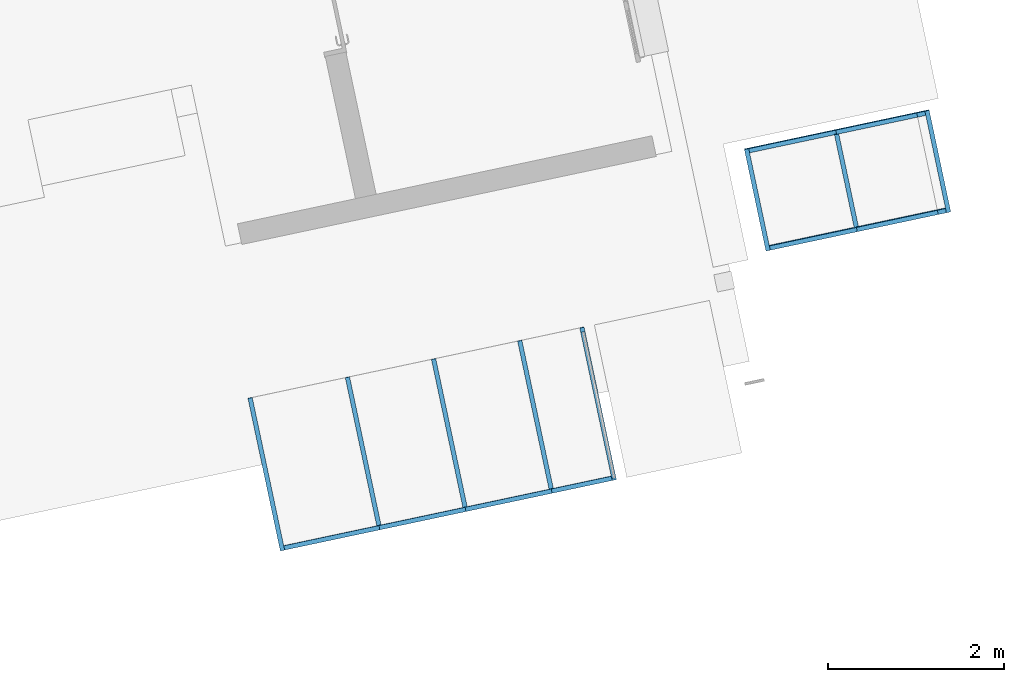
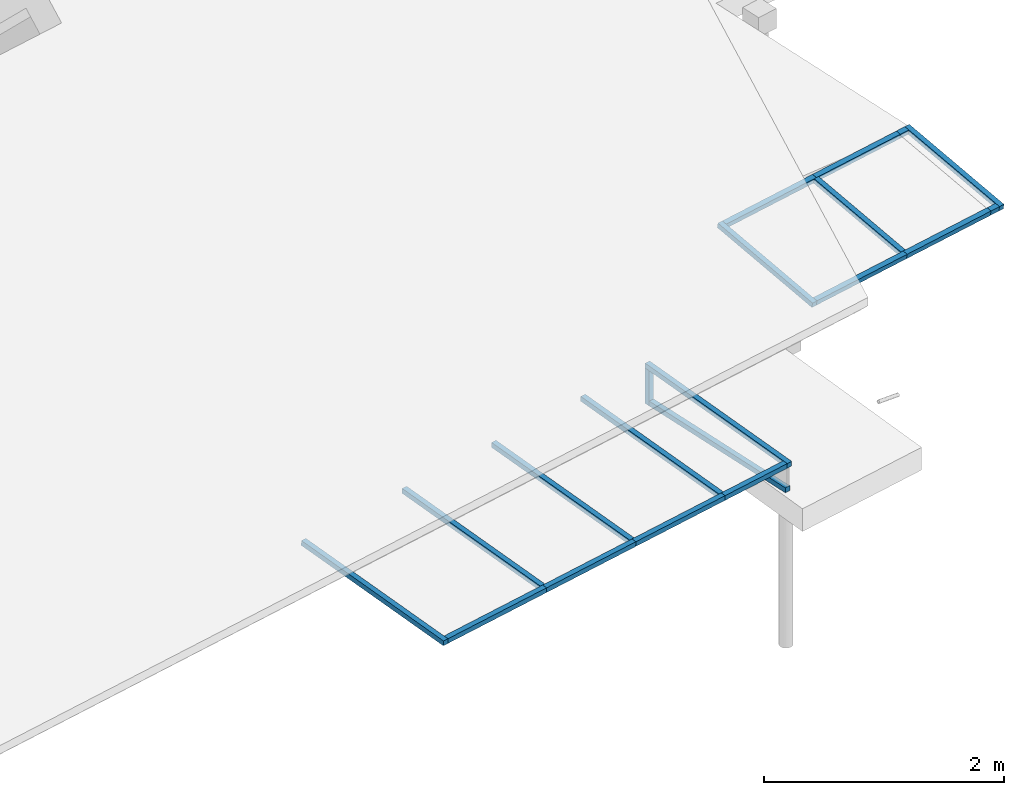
# One storey, part 1 of 10: 20 members, 3 elements without a shape of their own.
"""IFC2X3 building model written with IfcOpenShell, lengths in centimetres."""

from ifc_helpers import new_model, entity, si_unit, converted_unit, derived_unit, direction, frame, origin, origin_2d_with_axis, place, context, subcontext, project, spatial, rectangle, extrude, source, transform, mapped, material, type_object, type_shapes, element, aggregate, save


model = new_model("IFC2X3")

# Units and contexts
model_context = context("Model", 3, precision=0.001, world=origin(), true_north=direction((6.12303176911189e-17, 1.0)))
body_context = subcontext(model_context, "Body", "Model", "MODEL_VIEW")
ifc_project = project(units=[si_unit("LENGTHUNIT", "METRE", prefix="CENTI"), si_unit("AREAUNIT", "SQUARE_METRE"), si_unit("VOLUMEUNIT", "CUBIC_METRE"), converted_unit("PLANEANGLEUNIT", "DEGREE", entity("IfcRatioMeasure", 0.0174532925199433), si_unit("PLANEANGLEUNIT", "RADIAN"), dimensions=[0, 0, 0, 0, 0, 0, 0]), si_unit("MASSUNIT", "GRAM", prefix="KILO"), derived_unit("MASSDENSITYUNIT", [(si_unit("MASSUNIT", "GRAM", prefix="KILO"), 1), (si_unit("LENGTHUNIT", "METRE"), -3)]), derived_unit("IONCONCENTRATIONUNIT", [(si_unit("MASSUNIT", "GRAM", prefix="KILO"), 1), (si_unit("LENGTHUNIT", "METRE"), -3)]), derived_unit("MOMENTOFINERTIAUNIT", [(si_unit("LENGTHUNIT", "METRE"), 4)]), si_unit("TIMEUNIT", "SECOND"), si_unit("FREQUENCYUNIT", "HERTZ"), si_unit("THERMODYNAMICTEMPERATUREUNIT", "DEGREE_CELSIUS"), derived_unit("THERMALTRANSMITTANCEUNIT", [(si_unit("MASSUNIT", "GRAM", prefix="KILO"), 1), (si_unit("THERMODYNAMICTEMPERATUREUNIT", "KELVIN"), -1), (si_unit("TIMEUNIT", "SECOND"), -3)]), derived_unit("THERMALCONDUCTANCEUNIT", [(si_unit("MASSUNIT", "GRAM", prefix="KILO"), 1), (si_unit("THERMODYNAMICTEMPERATUREUNIT", "KELVIN"), -1), (si_unit("TIMEUNIT", "SECOND"), -3), (si_unit("LENGTHUNIT", "METRE"), 1)]), derived_unit("VOLUMETRICFLOWRATEUNIT", [(si_unit("LENGTHUNIT", "METRE"), 3), (si_unit("TIMEUNIT", "SECOND"), -1)]), derived_unit("MASSFLOWRATEUNIT", [(si_unit("MASSUNIT", "GRAM", prefix="KILO"), 1), (si_unit("TIMEUNIT", "SECOND"), -1)]), derived_unit("ROTATIONALFREQUENCYUNIT", [(si_unit("TIMEUNIT", "SECOND"), -1)]), si_unit("ELECTRICCURRENTUNIT", "AMPERE"), si_unit("ELECTRICVOLTAGEUNIT", "VOLT"), si_unit("POWERUNIT", "WATT"), si_unit("FORCEUNIT", "NEWTON", prefix="KILO"), si_unit("ILLUMINANCEUNIT", "LUX"), si_unit("LUMINOUSFLUXUNIT", "LUMEN"), si_unit("LUMINOUSINTENSITYUNIT", "CANDELA"), derived_unit("USERDEFINED", [(si_unit("MASSUNIT", "GRAM", prefix="KILO"), -1), (si_unit("LENGTHUNIT", "METRE"), -2), (si_unit("TIMEUNIT", "SECOND"), 3), (si_unit("LUMINOUSFLUXUNIT", "LUMEN"), 1)]), derived_unit("USERDEFINED", [(si_unit("MASSUNIT", "GRAM", prefix="KILO"), 1), (si_unit("TIMEUNIT", "SECOND"), -3), (si_unit("LENGTHUNIT", "METRE"), 3), (si_unit("ELECTRICCURRENTUNIT", "AMPERE"), -2)]), derived_unit("SOUNDPOWERUNIT", [(si_unit("MASSUNIT", "GRAM", prefix="KILO"), 1), (si_unit("TIMEUNIT", "SECOND"), -3), (si_unit("LENGTHUNIT", "METRE"), 2)]), derived_unit("SOUNDPRESSUREUNIT", [(si_unit("MASSUNIT", "GRAM", prefix="KILO"), 1), (si_unit("LENGTHUNIT", "METRE"), -1), (si_unit("TIMEUNIT", "SECOND"), -2)]), derived_unit("LINEARVELOCITYUNIT", [(si_unit("LENGTHUNIT", "METRE"), 1), (si_unit("TIMEUNIT", "SECOND"), -1)]), si_unit("PRESSUREUNIT", "PASCAL"), derived_unit("USERDEFINED", [(si_unit("MASSUNIT", "GRAM", prefix="KILO"), 1), (si_unit("LENGTHUNIT", "METRE"), -2), (si_unit("TIMEUNIT", "SECOND"), -2)]), derived_unit("LINEARFORCEUNIT", [(si_unit("MASSUNIT", "GRAM", prefix="KILO"), 1), (si_unit("TIMEUNIT", "SECOND"), -2)]), derived_unit("PLANARFORCEUNIT", [(si_unit("MASSUNIT", "GRAM", prefix="KILO"), 1), (si_unit("LENGTHUNIT", "METRE"), -1), (si_unit("TIMEUNIT", "SECOND"), -2)]), derived_unit("SPECIFICHEATCAPACITYUNIT", [(si_unit("THERMODYNAMICTEMPERATUREUNIT", "KELVIN"), -1), (si_unit("LENGTHUNIT", "METRE"), 2), (si_unit("TIMEUNIT", "SECOND"), -2)]), derived_unit("HEATINGVALUEUNIT", [(si_unit("LENGTHUNIT", "METRE"), 2), (si_unit("TIMEUNIT", "SECOND"), -2)]), derived_unit("VAPORPERMEABILITYUNIT", [(si_unit("LENGTHUNIT", "METRE"), -1), (si_unit("TIMEUNIT", "SECOND"), 1)]), derived_unit("DYNAMICVISCOSITYUNIT", [(si_unit("MASSUNIT", "GRAM", prefix="KILO"), 1), (si_unit("TIMEUNIT", "SECOND"), -1), (si_unit("LENGTHUNIT", "METRE"), -1)]), derived_unit("THERMALEXPANSIONCOEFFICIENTUNIT", [(si_unit("THERMODYNAMICTEMPERATUREUNIT", "KELVIN"), -1)]), derived_unit("MODULUSOFELASTICITYUNIT", [(si_unit("MASSUNIT", "GRAM", prefix="KILO"), 1), (si_unit("LENGTHUNIT", "METRE"), -1), (si_unit("TIMEUNIT", "SECOND"), -2)]), derived_unit("ISOTHERMALMOISTURECAPACITYUNIT", [(si_unit("LENGTHUNIT", "METRE"), 3), (si_unit("MASSUNIT", "GRAM", prefix="KILO"), -1)]), derived_unit("MOISTUREDIFFUSIVITYUNIT", [(si_unit("TIMEUNIT", "SECOND"), -1), (si_unit("LENGTHUNIT", "METRE"), 2)])], contexts=[model_context])

# Site, building, storey
site_placement = place(None, frame((14083.8920177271, -6853.25409548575, 6900.0), z_axis=(0.0, 0.0, 1.0), x_axis=(0.978188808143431, 0.207717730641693, 0.0)))
site = spatial("IfcSite", under=ifc_project, at=site_placement, Name="Surface", CompositionType="ELEMENT")
building_placement = place(site_placement, origin())
building = spatial("IfcBuilding", under=site, at=building_placement, CompositionType="ELEMENT")
storey_placement = place(building_placement, frame((0.0, 0.0, 289.0)))
storey = spatial("IfcBuildingStorey", under=building, at=storey_placement, Name="_R+1", CompositionType="ELEMENT", Elevation=289.0)

# Roof, members
curtain_wall_type_1 = type_object("IfcCurtainWallType", Name="Vitres inclinées:Toit en verre 1m x 2m", PredefinedType="NOTDEFINED")
roof_1_placement = place(storey_placement, frame((0.0, 0.0, -289.0)))
roof_1 = element("IfcRoof", 1, at=roof_1_placement, inside=storey, type_object=curtain_wall_type_1, Name="Vitres inclinées:Toit en verre 1m x 2m", ObjectType="Vitres inclinées:Toit en verre 1m x 2m", ShapeType="NOTDEFINED")
ifc_material = material(Name="__ METAL_gris foncé (menuiseries acier)______________________TEST")
member_type_1 = type_object("IfcMemberType", Name="Meneau rectangulaire:Métal 5x5 cm_bord haut", PredefinedType="MULLION", material=ifc_material)
shared_shape_1 = source(origin(), body_context, "Body", "SweptSolid", [
    extrude(rectangle(XDim=5.0, YDim=5.0, at=origin_2d_with_axis()), frame((0.0, 2.5, -172.322222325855), z_axis=(0.0, 0.0, 1.0), x_axis=(0.0, -1.0, 0.0)), (0.0, 0.0, 1.0), 172.322222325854),
])
type_shapes(member_type_1, [shared_shape_1])
member_1_placement = place(roof_1_placement, frame((-6684.95514329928, 14764.6724778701, 365.0), z_axis=(0.0, 0.998408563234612, 0.0563945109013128), x_axis=(1.0, 0.0, 0.0)))
member_1 = element("IfcMember", 2, at=member_1_placement, type_object=member_type_1, material=ifc_material, Name="Meneau rectangulaire:Métal 5x5 cm_bord haut", ObjectType="Meneau rectangulaire:Métal 5x5 cm_bord haut", context=body_context, shape_type="MappedRepresentation", body=[
    mapped(shared_shape_1, transform((0.0, 0.0, 0.0), scale=1.0)),
])
member_2_placement = place(roof_1_placement, frame((-6584.95514329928, 14764.6724778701, 365.0), z_axis=(0.0, 0.998408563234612, 0.0563945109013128), x_axis=(1.0, 0.0, 0.0)))
member_2 = element("IfcMember", 3, at=member_2_placement, type_object=member_type_1, material=ifc_material, Name="Meneau rectangulaire:Métal 5x5 cm_bord haut", ObjectType="Meneau rectangulaire:Métal 5x5 cm_bord haut", context=body_context, shape_type="MappedRepresentation", body=[
    mapped(shared_shape_1, transform((0.0, 0.0, 0.0), scale=1.0)),
])
member_3_placement = place(roof_1_placement, frame((-6484.95514329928, 14764.6724778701, 365.0), z_axis=(0.0, 0.998408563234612, 0.0563945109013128), x_axis=(1.0, 0.0, 0.0)))
member_3 = element("IfcMember", 4, at=member_3_placement, type_object=member_type_1, material=ifc_material, Name="Meneau rectangulaire:Métal 5x5 cm_bord haut", ObjectType="Meneau rectangulaire:Métal 5x5 cm_bord haut", context=body_context, shape_type="MappedRepresentation", body=[
    mapped(shared_shape_1, transform((0.0, 0.0, 0.0), scale=1.0)),
])
member_type_2 = type_object("IfcMemberType", Name="Meneau rectangulaire:Métal 5x5 cm_bord haut", PredefinedType="MULLION", material=ifc_material)
shared_shape_2 = source(origin(), body_context, "Body", "SweptSolid", [
    extrude(rectangle(XDim=5.0, YDim=5.0, at=origin_2d_with_axis()), frame((-2.5, 2.5, -177.322222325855), z_axis=(0.0, 0.0, 1.0), x_axis=(0.0, -1.0, 0.0)), (0.0, 0.0, 1.0), 177.322222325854),
])
type_shapes(member_type_2, [shared_shape_2])
member_4_placement = place(roof_1_placement, frame((-6410.31321908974, 14764.6724778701, 365.0), z_axis=(0.0, 0.998408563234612, 0.0563945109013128), x_axis=(1.0, 0.0, 0.0)))
member_4 = element("IfcMember", 5, at=member_4_placement, type_object=member_type_2, material=ifc_material, Name="Meneau rectangulaire:Métal 5x5 cm_bord haut", ObjectType="Meneau rectangulaire:Métal 5x5 cm_bord haut", context=body_context, shape_type="MappedRepresentation", body=[
    mapped(shared_shape_2, transform((0.0, 0.0, 0.0), scale=1.0)),
])
member_type_3 = type_object("IfcMemberType", Name="Meneau rectangulaire:Métal 5x5 cm_bord haut", PredefinedType="MULLION", material=ifc_material)
shared_shape_3 = source(origin(), body_context, "Body", "SweptSolid", [
    extrude(rectangle(XDim=5.0, YDim=5.0, at=origin_2d_with_axis()), frame((-2.5, 2.5, -100.0), z_axis=(0.0, 0.0, 1.0), x_axis=(0.0, -1.0, 0.0)), (0.0, 0.0, 1.0), 100.000000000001),
])
type_shapes(member_type_3, [shared_shape_3])
member_5_placement = place(roof_1_placement, frame((-6484.95514329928, 14587.6324526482, 355.0), z_axis=(1.0, 0.0, 0.0), x_axis=(0.0, -0.998408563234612, -0.0563945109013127)))
member_5 = element("IfcMember", 6, at=member_5_placement, type_object=member_type_3, material=ifc_material, Name="Meneau rectangulaire:Métal 5x5 cm_bord haut", ObjectType="Meneau rectangulaire:Métal 5x5 cm_bord haut", context=body_context, shape_type="MappedRepresentation", body=[
    mapped(shared_shape_3, transform((0.0, 0.0, 0.0), scale=1.0)),
])
member_6_placement = place(roof_1_placement, frame((-6584.95514329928, 14587.6324526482, 355.0), z_axis=(1.0, 0.0, 0.0), x_axis=(0.0, -0.998408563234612, -0.0563945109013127)))
member_6 = element("IfcMember", 7, at=member_6_placement, type_object=member_type_3, material=ifc_material, Name="Meneau rectangulaire:Métal 5x5 cm_bord haut", ObjectType="Meneau rectangulaire:Métal 5x5 cm_bord haut", context=body_context, shape_type="MappedRepresentation", body=[
    mapped(shared_shape_3, transform((0.0, 0.0, 0.0), scale=1.0)),
])
member_type_4 = type_object("IfcMemberType", Name="Meneau rectangulaire:Métal 5x5 cm_bord haut", PredefinedType="MULLION", material=ifc_material)
shared_shape_4 = source(origin(), body_context, "Body", "SweptSolid", [
    extrude(rectangle(XDim=5.0, YDim=5.0, at=origin_2d_with_axis()), frame((-2.5, 2.5, -110.500000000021), z_axis=(0.0, 0.0, 1.0), x_axis=(0.0, -1.0, 0.0)), (0.0, 0.0, 1.0), 110.500000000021),
])
type_shapes(member_type_4, [shared_shape_4])
member_7_placement = place(roof_1_placement, frame((-6684.95514329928, 14587.6324526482, 355.0), z_axis=(1.0, 0.0, 0.0), x_axis=(0.0, -0.998408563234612, -0.0563945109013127)))
member_7 = element("IfcMember", 8, at=member_7_placement, type_object=member_type_4, material=ifc_material, Name="Meneau rectangulaire:Métal 5x5 cm_bord haut", ObjectType="Meneau rectangulaire:Métal 5x5 cm_bord haut", context=body_context, shape_type="MappedRepresentation", body=[
    mapped(shared_shape_4, transform((0.0, 0.0, 0.0), scale=1.0)),
])
member_type_5 = type_object("IfcMemberType", Name="Meneau rectangulaire:Métal 5x5 cm_bord haut", PredefinedType="MULLION", material=ifc_material)
shared_shape_5 = source(origin(), body_context, "Body", "SweptSolid", [
    extrude(rectangle(XDim=5.0, YDim=5.0, at=origin_2d_with_axis()), frame((-2.5, 2.5, -69.6419242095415), z_axis=(0.0, 0.0, 1.0), x_axis=(0.0, -1.0, 0.0)), (0.0, 0.0, 1.0), 69.6419242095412),
])
type_shapes(member_type_5, [shared_shape_5])
member_8_placement = place(roof_1_placement, frame((-6415.31321908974, 14587.6324526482, 355.0), z_axis=(1.0, 0.0, 0.0), x_axis=(0.0, -0.998408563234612, -0.0563945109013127)))
member_8 = element("IfcMember", 9, at=member_8_placement, type_object=member_type_5, material=ifc_material, Name="Meneau rectangulaire:Métal 5x5 cm_bord haut", ObjectType="Meneau rectangulaire:Métal 5x5 cm_bord haut", context=body_context, shape_type="MappedRepresentation", body=[
    mapped(shared_shape_5, transform((0.0, 0.0, 0.0), scale=1.0)),
])
member_type_6 = type_object("IfcMemberType", Name="Meneau rectangulaire:Métal 5x5 cm_bord haut", PredefinedType="MULLION", material=ifc_material)
shared_shape_6 = source(origin(), body_context, "Body", "SweptSolid", [
    extrude(rectangle(XDim=5.0, YDim=5.0, at=origin_2d_with_axis()), frame((-2.5, 2.5, -177.322222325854), z_axis=(0.0, 0.0, 1.0), x_axis=(0.0, -1.0, 0.0)), (0.0, 0.0, 1.0), 177.322222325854),
])
type_shapes(member_type_6, [shared_shape_6])
member_9_placement = place(roof_1_placement, frame((-6800.4551432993, 14587.6324526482, 355.0), z_axis=(0.0, -0.998408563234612, -0.0563945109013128), x_axis=(-1.0, 0.0, 0.0)))
member_9 = element("IfcMember", 10, at=member_9_placement, type_object=member_type_6, material=ifc_material, Name="Meneau rectangulaire:Métal 5x5 cm_bord haut", ObjectType="Meneau rectangulaire:Métal 5x5 cm_bord haut", context=body_context, shape_type="MappedRepresentation", body=[
    mapped(shared_shape_6, transform((0.0, 0.0, 0.0), scale=1.0)),
])
aggregate(roof_1, [member_1, member_2, member_3, member_4, member_5, member_6, member_7, member_8, member_9])

# Curtain wall, members
curtain_wall_type_2 = type_object("IfcCurtainWallType", Name="Mur-rideau:*Mur-rideau", PredefinedType="NOTDEFINED")
curtain_wall_placement = place(storey_placement, frame((0.0, 0.0, -289.0)))
curtain_wall = element("IfcCurtainWall", 11, at=curtain_wall_placement, inside=storey, type_object=curtain_wall_type_2, Name="Mur-rideau:*Mur-rideau", ObjectType="Mur-rideau:*Mur-rideau")
member_type_7 = type_object("IfcMemberType", Name="Meneau rectangulaire:Métal 5x5 cm_bord bas", PredefinedType="MULLION", material=ifc_material)
shared_shape_7 = source(origin(), body_context, "Body", "SweptSolid", [
    extrude(rectangle(XDim=5.0, YDim=5.0, at=origin_2d_with_axis()), frame((-2.5, -2.5, -35.98517704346), z_axis=(0.0, 0.0, 1.0), x_axis=(0.0, -1.0, 0.0)), (0.0, 0.0, 1.0), 35.98517704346),
])
type_shapes(member_type_7, [shared_shape_7])
member_10_placement = place(curtain_wall_placement, frame((-6410.31321908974, 14764.5511507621, 324.0), z_axis=(0.0, 0.0, -1.0), x_axis=(0.0, 1.0, 0.0)))
member_10 = element("IfcMember", 12, at=member_10_placement, type_object=member_type_7, material=ifc_material, Name="Meneau rectangulaire:Métal 5x5 cm_bord bas", ObjectType="Meneau rectangulaire:Métal 5x5 cm_bord bas", context=body_context, shape_type="MappedRepresentation", body=[
    mapped(shared_shape_7, transform((0.0, 0.0, 0.0), scale=1.0)),
])
member_type_8 = type_object("IfcMemberType", Name="Meneau rectangulaire:Métal 5x5 cm_bord bas", PredefinedType="MULLION", material=ifc_material)
shared_shape_8 = source(origin(), body_context, "Body", "SweptSolid", [
    extrude(rectangle(XDim=5.0, YDim=5.0, at=origin_2d_with_axis()), frame((-2.5, -2.5, -169.418698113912), z_axis=(0.0, 0.0, 1.0), x_axis=(0.0, -1.0, 0.0)), (0.0, 0.0, 1.0), 169.418698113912),
])
type_shapes(member_type_8, [shared_shape_8])
member_11_placement = place(curtain_wall_placement, frame((-6410.31321908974, 14590.1324526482, 324.0), z_axis=(0.0, -1.0, 0.0), x_axis=(0.0, 0.0, -1.0)))
member_11 = element("IfcMember", 13, at=member_11_placement, type_object=member_type_8, material=ifc_material, Name="Meneau rectangulaire:Métal 5x5 cm_bord bas", ObjectType="Meneau rectangulaire:Métal 5x5 cm_bord bas", context=body_context, shape_type="MappedRepresentation", body=[
    mapped(shared_shape_8, transform((0.0, 0.0, 0.0), scale=1.0)),
])
aggregate(curtain_wall, [member_10, member_11])

# Roof, members
roof_2_placement = place(storey_placement, frame((0.0, 0.0, -289.0)))
roof_2 = element("IfcRoof", 14, at=roof_2_placement, inside=storey, type_object=curtain_wall_type_1, Name="Vitres inclinées:Toit en verre 1m x 2m", ObjectType="Vitres inclinées:Toit en verre 1m x 2m", ShapeType="NOTDEFINED")
member_type_9 = type_object("IfcMemberType", Name="Meneau rectangulaire:Métal 5x5 cm_bord haut", PredefinedType="MULLION", material=ifc_material)
shared_shape_9 = source(origin(), body_context, "Body", "SweptSolid", [
    extrude(rectangle(XDim=5.0, YDim=5.0, at=origin_2d_with_axis()), frame((-2.5, 2.5, -119.577542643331), z_axis=(0.0, 0.0, 1.0), x_axis=(0.0, -1.0, 0.0)), (0.0, 0.0, 1.0), 119.577542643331),
])
type_shapes(member_type_9, [shared_shape_9])
member_12_placement = place(roof_2_placement, frame((-6190.31321908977, 14806.1673447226, 299.0), z_axis=(0.0, -0.985913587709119, -0.167255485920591), x_axis=(-1.0, 0.0, 0.0)))
member_12 = element("IfcMember", 15, at=member_12_placement, type_object=member_type_9, material=ifc_material, Name="Meneau rectangulaire:Métal 5x5 cm_bord haut", ObjectType="Meneau rectangulaire:Métal 5x5 cm_bord haut", context=body_context, shape_type="MappedRepresentation", body=[
    mapped(shared_shape_9, transform((0.0, 0.0, 0.0), scale=1.0)),
])
member_type_10 = type_object("IfcMemberType", Name="Meneau rectangulaire:Métal 5x5 cm_bord haut", PredefinedType="MULLION", material=ifc_material)
shared_shape_10 = source(origin(), body_context, "Body", "SweptSolid", [
    extrude(rectangle(XDim=5.0, YDim=5.0, at=origin_2d_with_axis()), frame((-2.5, 2.5, -101.0), z_axis=(0.0, 0.0, 1.0), x_axis=(0.0, -1.0, 0.0)), (0.0, 0.0, 1.0), 101.0),
])
type_shapes(member_type_10, [shared_shape_10])
member_13_placement = place(roof_2_placement, frame((-6084.31321908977, 14806.1673447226, 299.0), z_axis=(1.0, 0.0, 0.0), x_axis=(0.0, -0.985913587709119, -0.167255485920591)))
member_13 = element("IfcMember", 16, at=member_13_placement, type_object=member_type_10, material=ifc_material, Name="Meneau rectangulaire:Métal 5x5 cm_bord haut", ObjectType="Meneau rectangulaire:Métal 5x5 cm_bord haut", context=body_context, shape_type="MappedRepresentation", body=[
    mapped(shared_shape_10, transform((0.0, 0.0, 0.0), scale=1.0)),
])
member_type_11 = type_object("IfcMemberType", Name="Meneau rectangulaire:Métal 5x5 cm_bord haut", PredefinedType="MULLION", material=ifc_material)
shared_shape_11 = source(origin(), body_context, "Body", "SweptSolid", [
    extrude(rectangle(XDim=5.0, YDim=5.0, at=origin_2d_with_axis()), frame((0.0, 2.5, -109.577542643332), z_axis=(0.0, 0.0, 1.0), x_axis=(0.0, -1.0, 0.0)), (0.0, 0.0, 1.0), 109.577542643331),
])
type_shapes(member_type_11, [shared_shape_11])
member_14_placement = place(roof_2_placement, frame((-6084.31321908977, 14919.130900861, 318.163722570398), z_axis=(0.0, 0.985913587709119, 0.167255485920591), x_axis=(1.0, 0.0, 0.0)))
member_14 = element("IfcMember", 17, at=member_14_placement, type_object=member_type_11, material=ifc_material, Name="Meneau rectangulaire:Métal 5x5 cm_bord haut", ObjectType="Meneau rectangulaire:Métal 5x5 cm_bord haut", context=body_context, shape_type="MappedRepresentation", body=[
    mapped(shared_shape_11, transform((0.0, 0.0, 0.0), scale=1.0)),
])
member_type_12 = type_object("IfcMemberType", Name="Meneau rectangulaire:Métal 5x5 cm_bord haut", PredefinedType="MULLION", material=ifc_material)
shared_shape_12 = source(origin(), body_context, "Body", "SweptSolid", [
    extrude(rectangle(XDim=5.0, YDim=5.0, at=origin_2d_with_axis()), frame((-2.5, 2.5, -119.577542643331), z_axis=(0.0, 0.0, 1.0), x_axis=(0.0, -1.0, 0.0)), (0.0, 0.0, 1.0), 119.577542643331),
])
type_shapes(member_type_12, [shared_shape_12])
member_15_placement = place(roof_2_placement, frame((-5975.81321908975, 14924.0604687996, 319.0), z_axis=(0.0, 0.985913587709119, 0.167255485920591), x_axis=(1.0, 0.0, 0.0)))
member_15 = element("IfcMember", 18, at=member_15_placement, type_object=member_type_12, material=ifc_material, Name="Meneau rectangulaire:Métal 5x5 cm_bord haut", ObjectType="Meneau rectangulaire:Métal 5x5 cm_bord haut", context=body_context, shape_type="MappedRepresentation", body=[
    mapped(shared_shape_12, transform((0.0, 0.0, 0.0), scale=1.0)),
])
member_type_13 = type_object("IfcMemberType", Name="Meneau rectangulaire:Métal 5x5 cm_bord haut", PredefinedType="MULLION", material=ifc_material)
shared_shape_13 = source(origin(), body_context, "Body", "SweptSolid", [
    extrude(rectangle(XDim=5.0, YDim=5.0, at=origin_2d_with_axis()), frame((-2.5, 2.5, -94.0), z_axis=(0.0, 0.0, 1.0), x_axis=(0.0, -1.0, 0.0)), (0.0, 0.0, 1.0), 93.9999999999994),
])
type_shapes(member_type_13, [shared_shape_13])
member_16_placement = place(roof_2_placement, frame((-5990.31321908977, 14806.1673447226, 299.0), z_axis=(1.0, 0.0, 0.0), x_axis=(0.0, -0.985913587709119, -0.167255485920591)))
member_16 = element("IfcMember", 19, at=member_16_placement, type_object=member_type_13, material=ifc_material, Name="Meneau rectangulaire:Métal 5x5 cm_bord haut", ObjectType="Meneau rectangulaire:Métal 5x5 cm_bord haut", context=body_context, shape_type="MappedRepresentation", body=[
    mapped(shared_shape_13, transform((0.0, 0.0, 0.0), scale=1.0)),
])
member_type_14 = type_object("IfcMemberType", Name="Meneau rectangulaire:Métal 5x5 cm_bord haut", PredefinedType="MULLION", material=ifc_material)
shared_shape_14 = source(origin(), body_context, "Body", "SweptSolid", [
    extrude(rectangle(XDim=5.0, YDim=5.0, at=origin_2d_with_axis()), frame((-2.5, 2.5, -9.50000000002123), z_axis=(0.0, 0.0, 1.0), x_axis=(0.0, -1.0, 0.0)), (0.0, 0.0, 1.0), 9.50000000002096),
])
type_shapes(member_type_14, [shared_shape_14])
member_17_placement = place(roof_2_placement, frame((-5980.81321908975, 14806.1673447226, 299.0), z_axis=(1.0, 0.0, 0.0), x_axis=(0.0, -0.985913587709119, -0.167255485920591)))
member_17 = element("IfcMember", 20, at=member_17_placement, type_object=member_type_14, material=ifc_material, Name="Meneau rectangulaire:Métal 5x5 cm_bord haut", ObjectType="Meneau rectangulaire:Métal 5x5 cm_bord haut", context=body_context, shape_type="MappedRepresentation", body=[
    mapped(shared_shape_14, transform((0.0, 0.0, 0.0), scale=1.0)),
])
member_type_15 = type_object("IfcMemberType", Name="Meneau rectangulaire:Métal 5x5 cm_bord haut", PredefinedType="MULLION", material=ifc_material)
shared_shape_15 = source(origin(), body_context, "Body", "SweptSolid", [
    extrude(rectangle(XDim=5.0, YDim=5.0, at=origin_2d_with_axis()), frame((-2.5, 2.5, -9.50000000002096), z_axis=(0.0, 0.0, 1.0), x_axis=(0.0, -1.0, 0.0)), (0.0, 0.0, 1.0), 9.50000000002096),
])
type_shapes(member_type_15, [shared_shape_15])
member_18_placement = place(roof_2_placement, frame((-5990.31321908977, 14924.0604687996, 319.0), z_axis=(-1.0, 0.0, 0.0), x_axis=(0.0, 0.985913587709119, 0.167255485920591)))
member_18 = element("IfcMember", 21, at=member_18_placement, type_object=member_type_15, material=ifc_material, Name="Meneau rectangulaire:Métal 5x5 cm_bord haut", ObjectType="Meneau rectangulaire:Métal 5x5 cm_bord haut", context=body_context, shape_type="MappedRepresentation", body=[
    mapped(shared_shape_15, transform((0.0, 0.0, 0.0), scale=1.0)),
])
member_type_16 = type_object("IfcMemberType", Name="Meneau rectangulaire:Métal 5x5 cm_bord haut", PredefinedType="MULLION", material=ifc_material)
shared_shape_16 = source(origin(), body_context, "Body", "SweptSolid", [
    extrude(rectangle(XDim=5.0, YDim=5.0, at=origin_2d_with_axis()), frame((-2.5, 2.5, -94.0), z_axis=(0.0, 0.0, 1.0), x_axis=(0.0, -1.0, 0.0)), (0.0, 0.0, 1.0), 93.9999999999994),
])
type_shapes(member_type_16, [shared_shape_16])
member_19_placement = place(roof_2_placement, frame((-6084.31321908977, 14924.0604687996, 319.0), z_axis=(-1.0, 0.0, 0.0), x_axis=(0.0, 0.985913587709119, 0.167255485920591)))
member_19 = element("IfcMember", 22, at=member_19_placement, type_object=member_type_16, material=ifc_material, Name="Meneau rectangulaire:Métal 5x5 cm_bord haut", ObjectType="Meneau rectangulaire:Métal 5x5 cm_bord haut", context=body_context, shape_type="MappedRepresentation", body=[
    mapped(shared_shape_16, transform((0.0, 0.0, 0.0), scale=1.0)),
])
member_type_17 = type_object("IfcMemberType", Name="Meneau rectangulaire:Métal 5x5 cm_bord haut", PredefinedType="MULLION", material=ifc_material)
shared_shape_17 = source(origin(), body_context, "Body", "SweptSolid", [
    extrude(rectangle(XDim=5.0, YDim=5.0, at=origin_2d_with_axis()), frame((-2.5, 2.5, -101.0), z_axis=(0.0, 0.0, 1.0), x_axis=(0.0, -1.0, 0.0)), (0.0, 0.0, 1.0), 101.0),
])
type_shapes(member_type_17, [shared_shape_17])
member_20_placement = place(roof_2_placement, frame((-6185.31321908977, 14924.0604687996, 319.0), z_axis=(-1.0, 0.0, 0.0), x_axis=(0.0, 0.985913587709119, 0.167255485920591)))
member_20 = element("IfcMember", 23, at=member_20_placement, type_object=member_type_17, material=ifc_material, Name="Meneau rectangulaire:Métal 5x5 cm_bord haut", ObjectType="Meneau rectangulaire:Métal 5x5 cm_bord haut", context=body_context, shape_type="MappedRepresentation", body=[
    mapped(shared_shape_17, transform((0.0, 0.0, 0.0), scale=1.0)),
])
aggregate(roof_2, [member_12, member_13, member_14, member_15, member_16, member_17, member_18, member_19, member_20])

save(model, "model.ifc")
